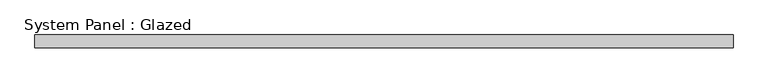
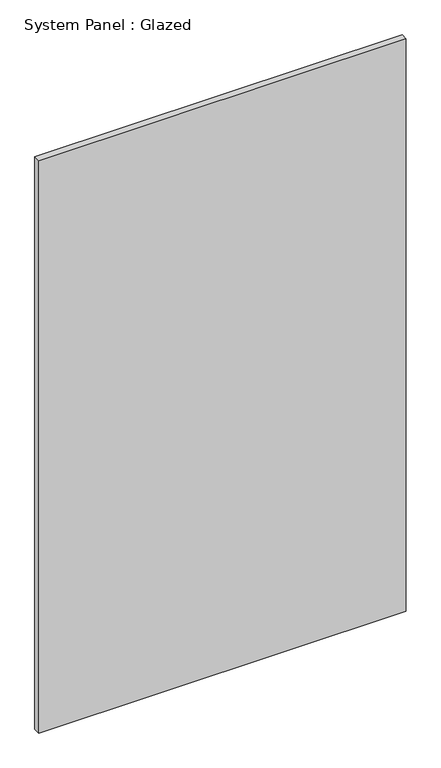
"""IFC4 building model written with IfcOpenShell, lengths in millimetres: plate geometry, System Panel : Glazed."""

from ifc_helpers import new_model, si_unit, origin, origin_with_axes, place, context, project, spatial, polyline, outline, extrude, source, transform, mapped, element, save


def system_panel_glazed_cbd1a98d(model_context):
    return source(origin(), model_context, "Body", "SweptSolid", [
        extrude(outline(polyline([(694.2581768, 19.05), (-694.2581768, 19.05), (-694.2581768, 44.45), (694.2581768, 44.45), (694.2581768, 19.05)])), origin_with_axes(), (0.0, 0.0, 1.0), 2286.0),
    ])


if __name__ == "__main__":
    model = new_model("IFC4")
    model_context = context("Model", 3, world=origin())
    ifc_project = project(units=[si_unit("LENGTHUNIT", "METRE", prefix="MILLI")], contexts=[model_context])
    site = spatial("IfcSite", under=ifc_project)
    building = spatial("IfcBuilding", under=site)
    placement = place(None, origin())
    system_panel_glazed_shape = system_panel_glazed_cbd1a98d(model_context)
    element("IfcPlate", 1, ObjectType="System Panel : Glazed", at=placement, inside=building, context=model_context, shape_type="MappedRepresentation", body=[
        mapped(system_panel_glazed_shape, transform((0.0, 0.0, 0.0), x_axis=(1.0, 0.0, 0.0), y_axis=(0.0, 1.0, 0.0), z_axis=(0.0, 0.0, 1.0))),
    ])
    save(model, "model.ifc")
